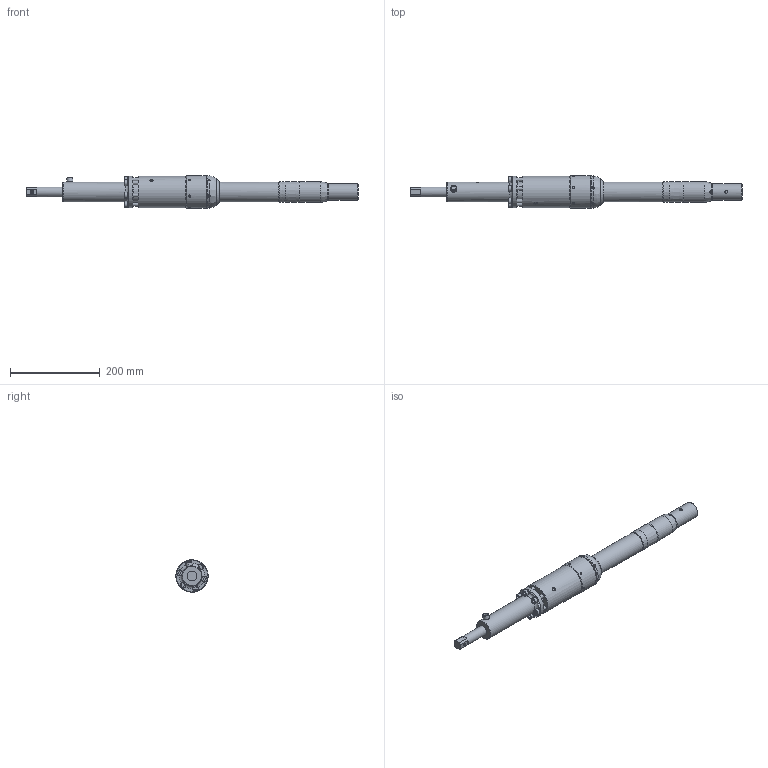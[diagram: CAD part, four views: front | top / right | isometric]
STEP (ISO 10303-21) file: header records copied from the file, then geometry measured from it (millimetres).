
FILE_DESCRIPTION(/* description */ (''),/* implementation_level */ '2;1');
FILE_NAME(/* name */ '10559656_A_SH07_STEP',/* time_stamp */ '2005-11-28T18:09:56+06:00',/* author */ (''),/* organization */ (''),/* preprocessor_version */ 'ST-DEVELOPER v9',/* originating_system */ 'EDS PLM SOLUTIONS - UNIGRAPHICS NX 2.0',/* authorisation */ '');
FILE_SCHEMA (('CONFIG_CONTROL_DESIGN'));
Length unit declared in the file: millimetre
Products named in the file (1): lgb54ACnskf
Bounding box: 740.89 x 72.36 x 72.29 mm (x, y, z)
Surface area: 133689.7 mm2 (no closed solid volume)
Topology: 0 solids, 1 shells, 277 faces, 753 edges, 487 vertices
Faces by surface type: plane 133, cylinder 101, cone 28, torus 13, bspline 2
Full cylindrical faces by diameter (mm): 1.016 x1, 4.978 x12, 5.41 x1, 5.588 x1, 6.731 x1, 7.794 x6, 8.338 x1, 8.73 x6, 12.675 x6, 14.275 x1, 22.187 x1, 36.83 x1, 41.758 x1, 42.672 x1, 44.425 x1, 44.45 x2, 45.72 x1, 55.88 x1, 66.548 x1, 69.85 x2, 72.39 x2
Entity records: 9895 total; most frequent: CARTESIAN_POINT 3564, DIRECTION 1282, ORIENTED_EDGE 1188, EDGE_CURVE 594, AXIS2_PLACEMENT_3D 515, VERTEX_POINT 424, EDGE_LOOP 419, ADVANCED_FACE 277
